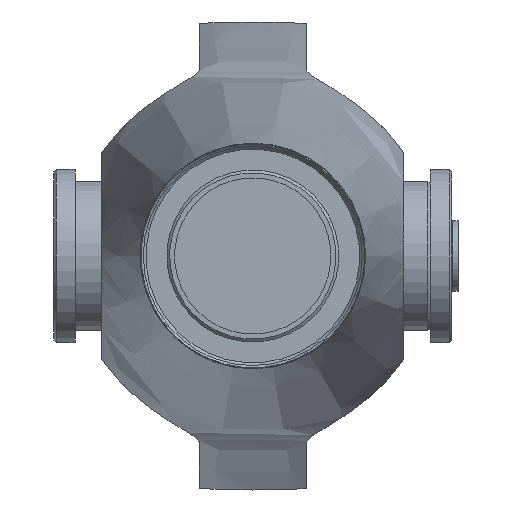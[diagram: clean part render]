
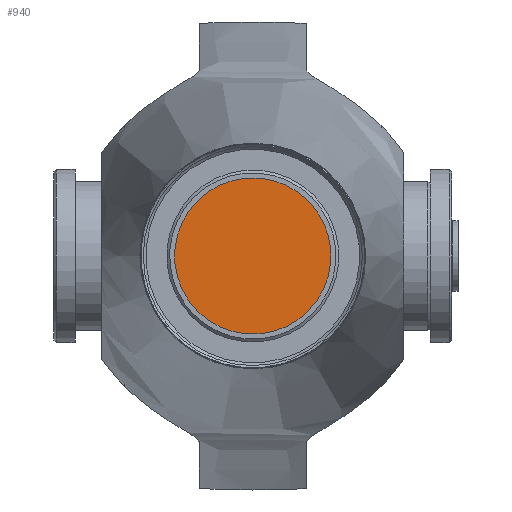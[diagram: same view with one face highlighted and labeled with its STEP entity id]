
A CAD part, left-side view. The second image highlights one B-rep face of the part: STEP entity #940.
In plain terms, the highlighted planar face has unit normal (-1, 0, 0).
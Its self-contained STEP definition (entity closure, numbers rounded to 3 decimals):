
#69=PLANE('',#1031);
#98=FACE_OUTER_BOUND('',#155,.T.);
#155=EDGE_LOOP('',(#619,#620));
#308=CIRCLE('',#1029,29.25);
#309=CIRCLE('',#1030,29.25);
#375=VERTEX_POINT('',#1456);
#376=VERTEX_POINT('',#1458);
#472=EDGE_CURVE('',#376,#375,#308,.T.);
#473=EDGE_CURVE('',#375,#376,#309,.T.);
#619=ORIENTED_EDGE('',*,*,#472,.T.);
#620=ORIENTED_EDGE('',*,*,#473,.T.);
#940=ADVANCED_FACE('',(#98),#69,.T.);
#1029=AXIS2_PLACEMENT_3D('',#1459,#1172,#1173);
#1030=AXIS2_PLACEMENT_3D('',#1460,#1174,#1175);
#1031=AXIS2_PLACEMENT_3D('',#1461,#1176,#1177);
#1172=DIRECTION('center_axis',(-1.,0.,0.));
#1173=DIRECTION('ref_axis',(0.,-0.909,-0.417));
#1174=DIRECTION('center_axis',(-1.,0.,0.));
#1175=DIRECTION('ref_axis',(0.,-0.909,-0.417));
#1176=DIRECTION('center_axis',(-1.,0.,0.));
#1177=DIRECTION('ref_axis',(0.,-0.909,-0.417));
#1456=CARTESIAN_POINT('',(-587.5,-12.206,26.582));
#1458=CARTESIAN_POINT('',(-587.5,12.206,-26.582));
#1459=CARTESIAN_POINT('Origin',(-587.5,0.,
0.));
#1460=CARTESIAN_POINT('Origin',(-587.5,0.,
0.));
#1461=CARTESIAN_POINT('Origin',(-587.5,0.,
0.));
